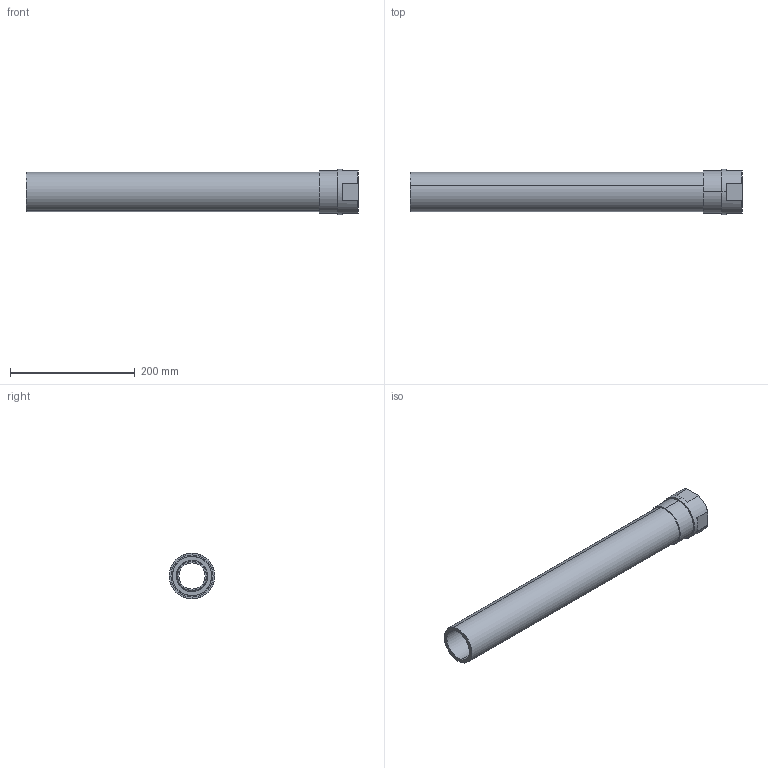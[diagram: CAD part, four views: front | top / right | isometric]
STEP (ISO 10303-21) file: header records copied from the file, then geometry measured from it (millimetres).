
FILE_DESCRIPTION (( 'STEP AP214' ), '1' );
FILE_NAME ('KP_C17-63_54FL.STEP', '2012-12-20T13:12:53', ( '' ), ( '' ), 'SwSTEP 2.0', 'SolidWorks 2012', '' );
FILE_SCHEMA (( 'AUTOMOTIVE_DESIGN' ));
Length unit declared in the file: millimetre
Products named in the file (1): KP_C17-63_54FL
Bounding box: 532.5 x 73 x 73 mm (x, y, z)
Volume: 652699.4 mm3; surface area: 217223 mm2
Topology: 1 solids, 1 shells, 58 faces, 128 edges, 80 vertices
Faces by surface type: cylinder 20, plane 18, cone 10, torus 10
Entity records: 1767 total; most frequent: CARTESIAN_POINT 339, DIRECTION 312, ORIENTED_EDGE 256, AXIS2_PLACEMENT_3D 133, EDGE_CURVE 128, VERTEX_POINT 80, CIRCLE 74, EDGE_LOOP 68
